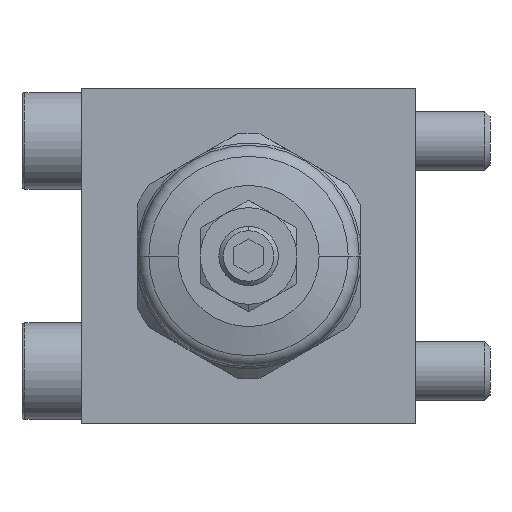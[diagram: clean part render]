
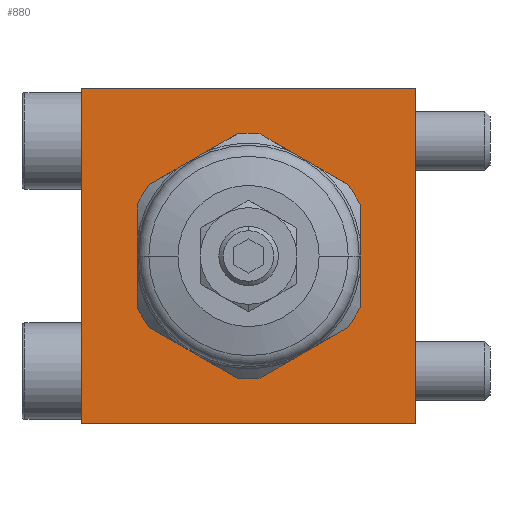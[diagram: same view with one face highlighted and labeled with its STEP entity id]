
A CAD part, left-side view. The second image highlights one B-rep face of the part: STEP entity #880.
In plain terms, the highlighted planar face has unit normal (-1, 0, 0).
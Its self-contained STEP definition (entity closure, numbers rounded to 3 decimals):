
#694=PLANE('',#3319);
#737=FACE_BOUND('',#1241,.T.);
#738=FACE_BOUND('',#1242,.T.);
#880=ADVANCED_FACE('',(#737,#738),#694,.T.);
#1241=EDGE_LOOP('',(#1785,#1786,#1787,#1788,#1789,#1790,#1791,#1792,#1793,
#1794,#1795,#1796));
#1242=EDGE_LOOP('',(#1797,#1798,#1799,#1800));
#1432=CIRCLE('',#3308,15.2);
#1433=CIRCLE('',#3310,15.2);
#1434=CIRCLE('',#3312,15.2);
#1435=CIRCLE('',#3314,15.2);
#1436=CIRCLE('',#3316,15.2);
#1437=CIRCLE('',#3318,15.2);
#1785=ORIENTED_EDGE('',*,*,#2683,.T.);
#1786=ORIENTED_EDGE('',*,*,#2697,.F.);
#1787=ORIENTED_EDGE('',*,*,#2698,.T.);
#1788=ORIENTED_EDGE('',*,*,#2699,.F.);
#1789=ORIENTED_EDGE('',*,*,#2695,.T.);
#1790=ORIENTED_EDGE('',*,*,#2700,.F.);
#1791=ORIENTED_EDGE('',*,*,#2692,.T.);
#1792=ORIENTED_EDGE('',*,*,#2701,.F.);
#1793=ORIENTED_EDGE('',*,*,#2689,.T.);
#1794=ORIENTED_EDGE('',*,*,#2702,.F.);
#1795=ORIENTED_EDGE('',*,*,#2686,.T.);
#1796=ORIENTED_EDGE('',*,*,#2703,.F.);
#1797=ORIENTED_EDGE('',*,*,#2704,.T.);
#1798=ORIENTED_EDGE('',*,*,#2705,.F.);
#1799=ORIENTED_EDGE('',*,*,#2706,.F.);
#1800=ORIENTED_EDGE('',*,*,#2707,.T.);
#2402=VERTEX_POINT('',#4761);
#2403=VERTEX_POINT('',#4763);
#2404=VERTEX_POINT('',#4773);
#2405=VERTEX_POINT('',#4775);
#2406=VERTEX_POINT('',#4785);
#2407=VERTEX_POINT('',#4787);
#2408=VERTEX_POINT('',#4797);
#2409=VERTEX_POINT('',#4799);
#2410=VERTEX_POINT('',#4809);
#2411=VERTEX_POINT('',#4811);
#2412=VERTEX_POINT('',#4818);
#2413=VERTEX_POINT('',#4820);
#2414=VERTEX_POINT('',#4827);
#2415=VERTEX_POINT('',#4828);
#2416=VERTEX_POINT('',#4830);
#2417=VERTEX_POINT('',#4832);
#2683=EDGE_CURVE('',#2403,#2402,#1432,.T.);
#2686=EDGE_CURVE('',#2405,#2404,#1433,.T.);
#2689=EDGE_CURVE('',#2407,#2406,#1434,.T.);
#2692=EDGE_CURVE('',#2409,#2408,#1435,.T.);
#2695=EDGE_CURVE('',#2411,#2410,#1436,.T.);
#2697=EDGE_CURVE('',#2412,#2402,#2948,.T.);
#2698=EDGE_CURVE('',#2412,#2413,#1437,.T.);
#2699=EDGE_CURVE('',#2411,#2413,#2949,.T.);
#2700=EDGE_CURVE('',#2409,#2410,#2950,.T.);
#2701=EDGE_CURVE('',#2407,#2408,#2951,.T.);
#2702=EDGE_CURVE('',#2405,#2406,#2952,.T.);
#2703=EDGE_CURVE('',#2403,#2404,#2953,.T.);
#2704=EDGE_CURVE('',#2414,#2415,#2954,.T.);
#2705=EDGE_CURVE('',#2416,#2415,#2955,.T.);
#2706=EDGE_CURVE('',#2417,#2416,#2956,.T.);
#2707=EDGE_CURVE('',#2417,#2414,#2957,.T.);
#2948=LINE('',#4817,#3099);
#2949=LINE('',#4821,#3100);
#2950=LINE('',#4822,#3101);
#2951=LINE('',#4823,#3102);
#2952=LINE('',#4824,#3103);
#2953=LINE('',#4825,#3104);
#2954=LINE('',#4826,#3105);
#2955=LINE('',#4829,#3106);
#2956=LINE('',#4831,#3107);
#2957=LINE('',#4833,#3108);
#3099=VECTOR('',#3863,1.);
#3100=VECTOR('',#3866,1.);
#3101=VECTOR('',#3867,1.);
#3102=VECTOR('',#3868,1.);
#3103=VECTOR('',#3869,1.);
#3104=VECTOR('',#3870,1.);
#3105=VECTOR('',#3871,1.);
#3106=VECTOR('',#3872,1.);
#3107=VECTOR('',#3873,1.);
#3108=VECTOR('',#3874,1.);
#3308=AXIS2_PLACEMENT_3D('',#4762,#3843,#3844);
#3310=AXIS2_PLACEMENT_3D('',#4774,#3847,#3848);
#3312=AXIS2_PLACEMENT_3D('',#4786,#3851,#3852);
#3314=AXIS2_PLACEMENT_3D('',#4798,#3855,#3856);
#3316=AXIS2_PLACEMENT_3D('',#4810,#3859,#3860);
#3318=AXIS2_PLACEMENT_3D('',#4819,#3864,#3865);
#3319=AXIS2_PLACEMENT_3D('',#4834,#3875,#3876);
#3843=DIRECTION('',(1.,0.,0.));
#3844=DIRECTION('',(0.,1.,0.));
#3847=DIRECTION('',(1.,0.,0.));
#3848=DIRECTION('',(0.,1.,0.));
#3851=DIRECTION('',(1.,0.,0.));
#3852=DIRECTION('',(0.,1.,0.));
#3855=DIRECTION('',(1.,0.,0.));
#3856=DIRECTION('',(0.,1.,0.));
#3859=DIRECTION('',(1.,0.,0.));
#3860=DIRECTION('',(0.,1.,0.));
#3863=DIRECTION('',(0.,0.866,0.5));
#3864=DIRECTION('',(1.,0.,0.));
#3865=DIRECTION('',(0.,1.,0.));
#3866=DIRECTION('',(0.,0.,1.));
#3867=DIRECTION('',(0.,-0.866,0.5));
#3868=DIRECTION('',(0.,-0.866,-0.5));
#3869=DIRECTION('',(0.,0.,-1.));
#3870=DIRECTION('',(0.,0.866,-0.5));
#3871=DIRECTION('',(0.,0.,1.));
#3872=DIRECTION('',(0.,-1.,0.));
#3873=DIRECTION('',(0.,0.,1.));
#3874=DIRECTION('',(0.,-1.,0.));
#3875=DIRECTION('',(-1.,0.,0.));
#3876=DIRECTION('',(0.,0.,-1.));
#4761=CARTESIAN_POINT('',(0.,17.128,14.219));
#4762=CARTESIAN_POINT('',(0.,22.5,0.));
#4763=CARTESIAN_POINT('',(0.,27.872,14.219));
#4773=CARTESIAN_POINT('',(0.,32.128,11.762));
#4774=CARTESIAN_POINT('',(0.,22.5,0.));
#4775=CARTESIAN_POINT('',(0.,37.5,2.458));
#4785=CARTESIAN_POINT('',(0.,37.5,-2.458));
#4786=CARTESIAN_POINT('',(0.,22.5,0.));
#4787=CARTESIAN_POINT('',(0.,32.128,-11.762));
#4797=CARTESIAN_POINT('',(0.,27.872,-14.219));
#4798=CARTESIAN_POINT('',(0.,22.5,0.));
#4799=CARTESIAN_POINT('',(0.,17.128,-14.219));
#4809=CARTESIAN_POINT('',(0.,12.872,-11.762));
#4810=CARTESIAN_POINT('',(0.,22.5,0.));
#4811=CARTESIAN_POINT('',(0.,7.5,-2.458));
#4817=CARTESIAN_POINT('',(0.,7.5,8.66));
#4818=CARTESIAN_POINT('',(0.,12.872,11.762));
#4819=CARTESIAN_POINT('',(0.,22.5,0.));
#4820=CARTESIAN_POINT('',(0.,7.5,2.458));
#4821=CARTESIAN_POINT('',(0.,7.5,-8.66));
#4822=CARTESIAN_POINT('',(0.,22.5,-17.321));
#4823=CARTESIAN_POINT('',(0.,37.5,-8.66));
#4824=CARTESIAN_POINT('',(0.,37.5,8.66));
#4825=CARTESIAN_POINT('',(0.,22.5,17.321));
#4826=CARTESIAN_POINT('',(0.,0.,-22.5));
#4827=CARTESIAN_POINT('',(0.,0.,-22.5));
#4828=CARTESIAN_POINT('',(0.,0.,22.5));
#4829=CARTESIAN_POINT('',(0.,0.,22.5));
#4830=CARTESIAN_POINT('',(0.,45.,22.5));
#4831=CARTESIAN_POINT('',(0.,45.,-22.5));
#4832=CARTESIAN_POINT('',(0.,45.,-22.5));
#4833=CARTESIAN_POINT('',(0.,0.,-22.5));
#4834=CARTESIAN_POINT('',(0.,0.,-22.5));
